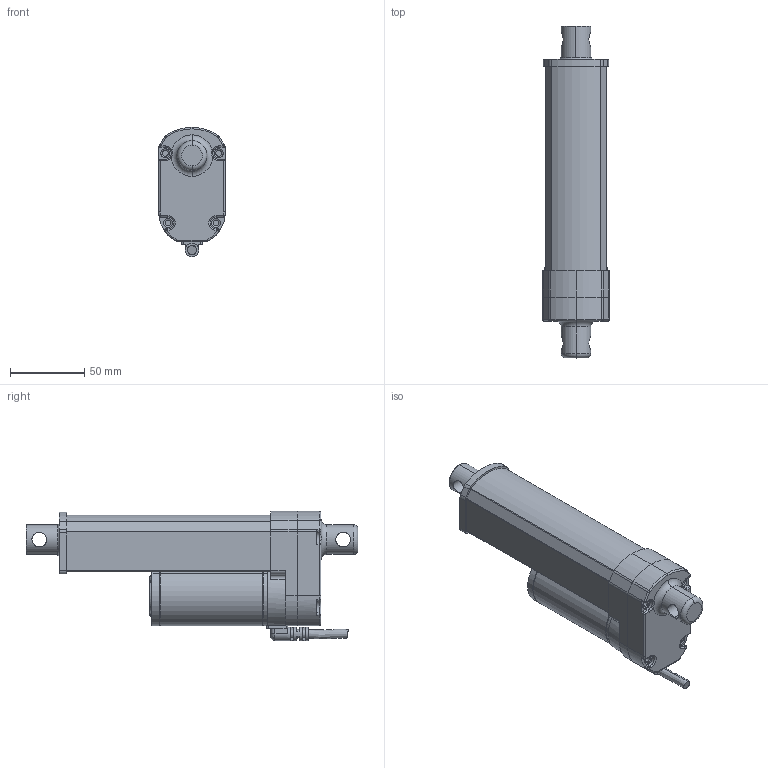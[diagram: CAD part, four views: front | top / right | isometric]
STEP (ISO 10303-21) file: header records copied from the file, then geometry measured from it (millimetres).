
FILE_DESCRIPTION((''),' ');
FILE_NAME('DSZY4-100-std_enc2.stp',' ',('R. Lindner'),('MSW GmbH'),' ','ACIS 14.0',' ');
FILE_SCHEMA(('automotive_design'));
Length unit declared in the file: inch
Products named in the file (8): DSZY4-100|NAUO1#«e»\_1;NONE; DSZY4-100|NAUO2#¥~ºÞ_1;¿é¤J1; DSZY4-100|NAUO3#¨¾Â\Àô_1;¿é¤J1; DSZY4-100|NAUO4#26x20x5ªo«Ê_1;¿é¤J1; DSZY4-100|NAUO5#SR_1;¿é¤J1; DSZY4-100|NAUO6#LD3-80-HS°¨¹F_1;¿é¤J1; DSZY4-100|NAUO7#­I»\;¶ê¨¤11; DSZY4-100|NAUO8#¤ººÞ;°£®Æ-¦ùªø3
Bounding box: 45 x 224 x 87.16 mm (x, y, z)
Volume: 274771.6 mm3; surface area: 108605.3 mm2
Topology: 8 solids, 9 shells, 484 faces, 1262 edges, 811 vertices
Faces by surface type: cylinder 202, plane 200, cone 44, torus 20, bspline 10, sphere 8
Entity records: 19874 total; most frequent: CARTESIAN_POINT 3596, DIRECTION 2698, ORIENTED_EDGE 2508, EDGE_CURVE 1254, AXIS2_PLACEMENT_3D 1026, VERTEX_POINT 811, LINE 646, VECTOR 646
